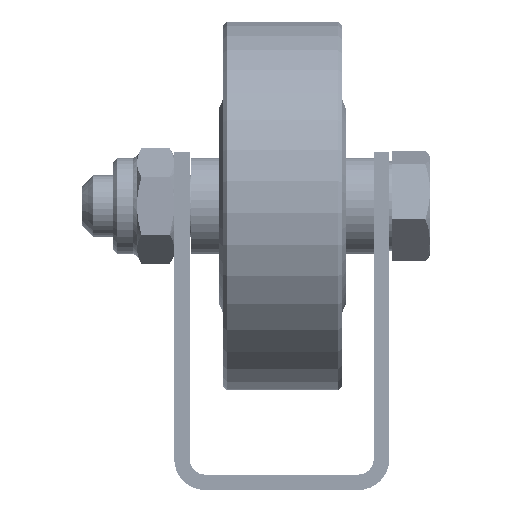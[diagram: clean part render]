
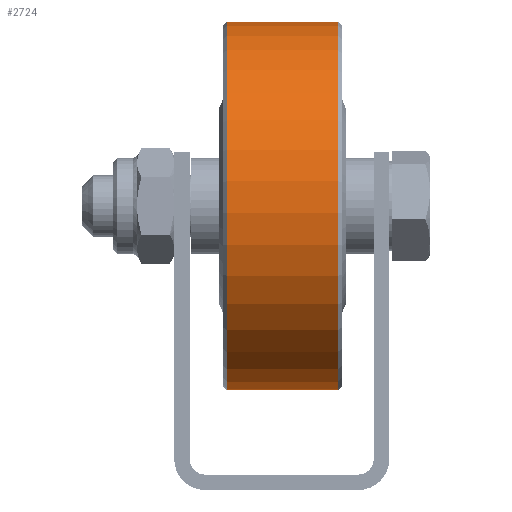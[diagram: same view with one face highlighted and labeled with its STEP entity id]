
A CAD part, front view. The second image highlights one B-rep face of the part: STEP entity #2724.
In plain terms, the highlighted cylindrical face has radius 24 mm (diameter 48 mm), a full revolution.
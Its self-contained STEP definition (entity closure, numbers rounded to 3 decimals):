
#2724 = ADVANCED_FACE( '', ( #5829, #5830 ), #5831, .T. );
#5829 = FACE_OUTER_BOUND( '', #8919, .T. );
#5830 = FACE_OUTER_BOUND( '', #8920, .T. );
#5831 = CYLINDRICAL_SURFACE( '', #8921, 24. );
#8919 = EDGE_LOOP( '', ( #13134 ) );
#8920 = EDGE_LOOP( '', ( #13135 ) );
#8921 = AXIS2_PLACEMENT_3D( '', #13136, #13137, #13138 );
#13134 = ORIENTED_EDGE( '', *, *, #15533, .T. );
#13135 = ORIENTED_EDGE( '', *, *, #15539, .T. );
#13136 = CARTESIAN_POINT( '', ( 0., -7.75, 0. ) );
#13137 = DIRECTION( '', ( 0., -1., 0. ) );
#13138 = DIRECTION( '', ( 0., 0., 1. ) );
#15533 = EDGE_CURVE( '', #18174, #18174, #18175, .F. );
#15539 = EDGE_CURVE( '', #18181, #18181, #18182, .T. );
#18174 = VERTEX_POINT( '', #21273 );
#18175 = CIRCLE( '', #21274, 24. );
#18181 = VERTEX_POINT( '', #21287 );
#18182 = CIRCLE( '', #21288, 24. );
#21273 = CARTESIAN_POINT( '', ( 0., 7.25, 24. ) );
#21274 = AXIS2_PLACEMENT_3D( '', #24284, #24285, #24286 );
#21287 = CARTESIAN_POINT( '', ( 0., -7.25, 24. ) );
#21288 = AXIS2_PLACEMENT_3D( '', #24287, #24288, #24289 );
#24284 = CARTESIAN_POINT( '', ( 0., 7.25, 0. ) );
#24285 = DIRECTION( '', ( 0., 1., 0. ) );
#24286 = DIRECTION( '', ( 0., 0., 1. ) );
#24287 = CARTESIAN_POINT( '', ( 0., -7.25, 0. ) );
#24288 = DIRECTION( '', ( 0., 1., 0. ) );
#24289 = DIRECTION( '', ( 0., 0., 1. ) );
